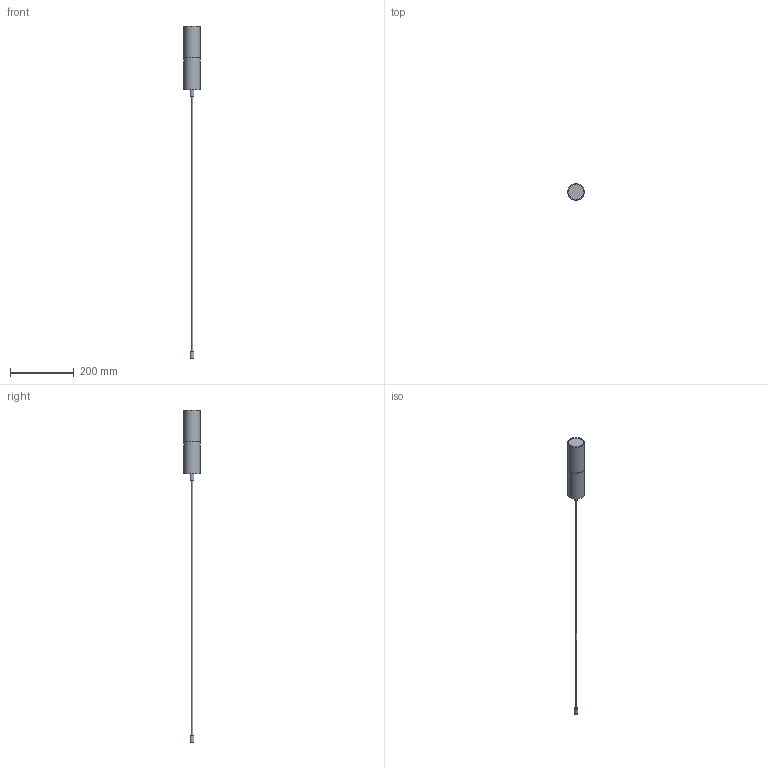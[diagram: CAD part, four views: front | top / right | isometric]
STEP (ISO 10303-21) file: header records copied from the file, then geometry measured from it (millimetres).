
FILE_DESCRIPTION(/* description */ (''),/* implementation_level */ '2;1');
FILE_NAME(/* name */ 'D:\TK Lighting\Projekty Lamp\Lampa Elit White.stp',/* time_stamp */ '2020-09-28T20:15:18+02:00',/* author */ ('Admin'),/* organization */ (''),/* preprocessor_version */ 'ST-DEVELOPER v16.5',/* originating_system */ 'Autodesk Inventor 2017',/* authorisation */ '');
FILE_SCHEMA (('AUTOMOTIVE_DESIGN { 1 0 10303 214 3 1 1 }'));
Length unit declared in the file: inch
Products named in the file (4): Lampa Elit White; Klosz srebrny 4367; Klosz; Zawiesie
Assembly tree (3 placements, depth 2):
  Lampa Elit White
    Klosz srebrny 4367
    Klosz
    Zawiesie
Bounding box: 52 x 52 x 1040 mm (x, y, z)
Volume: 431777.4 mm3; surface area: 53570.4 mm2
Topology: 3 solids, 3 shells, 17 faces, 21 edges, 14 vertices
Faces by surface type: plane 10, cylinder 7
Full cylindrical faces by diameter (mm): 4 x1, 12 x2, 49 x2, 52 x2
Entity records: 490 total; most frequent: DIRECTION 76, CARTESIAN_POINT 52, AXIS2_PLACEMENT_3D 38, EDGE_LOOP 28, ORIENTED_EDGE 28, STYLED_ITEM 18, FACE_OUTER_BOUND 17, ADVANCED_FACE 17
